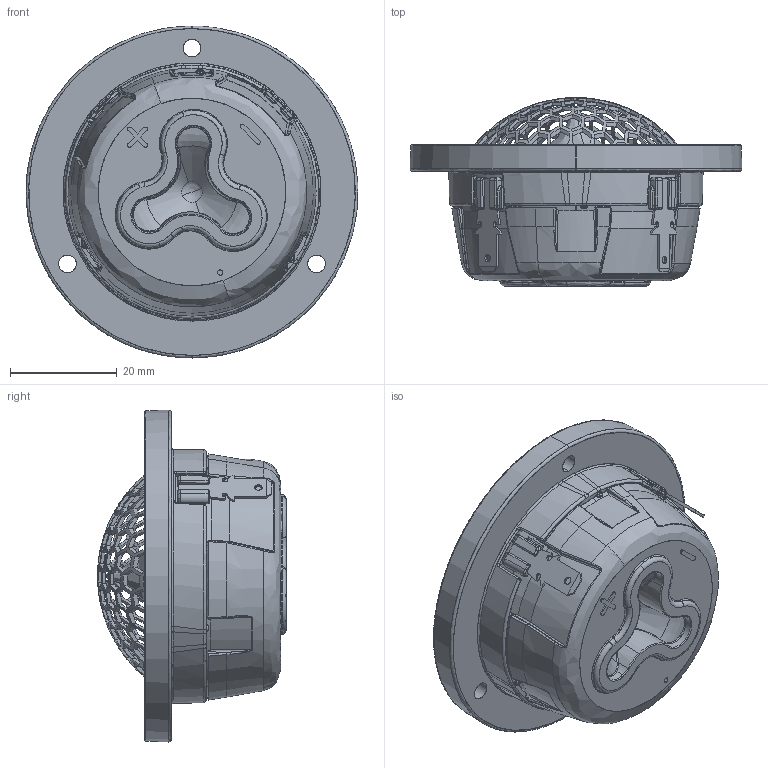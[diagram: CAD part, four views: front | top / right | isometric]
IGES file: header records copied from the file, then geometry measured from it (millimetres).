
Start section: SolidWorks IGES file using analytic representation for surfaces
Global section: file name: W:\TT\R30\R3004-602005.IGS; native system: SolidWorks 2019; preprocessor: SolidWorks 2019; author: mhn; date: 201215.112818; units: millimetre
Bounding box: 62.21 x 35.28 x 62.21 mm (x, y, z)
Surface area: 16770.7 mm2 (no closed solid volume)
Topology: 0 solids, 0 shells, 1530 faces, 12412 edges, 12395 vertices
Faces by surface type: bspline 1192, revolution 338
